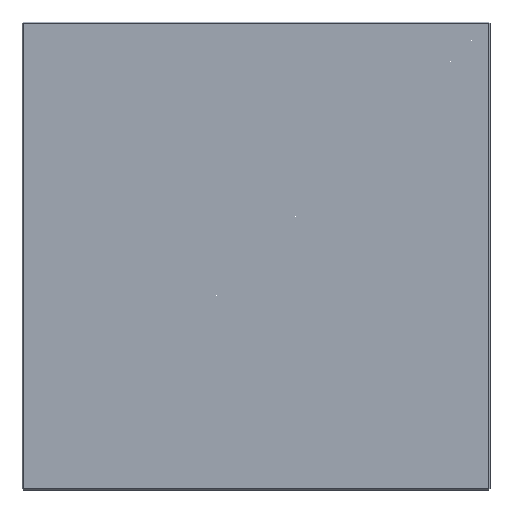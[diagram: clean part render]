
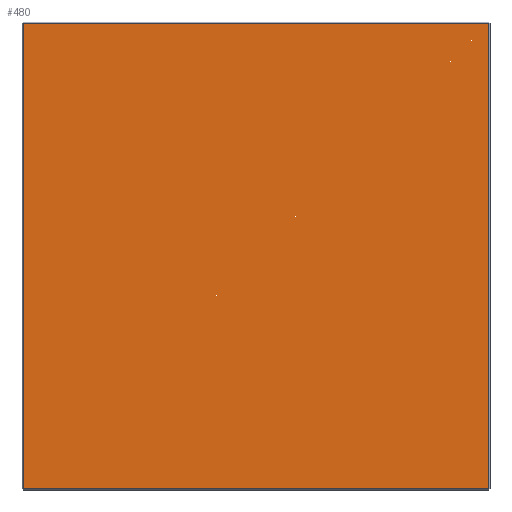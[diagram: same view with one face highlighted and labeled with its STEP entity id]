
A CAD part, front view. The second image highlights one B-rep face of the part: STEP entity #480.
In plain terms, the highlighted planar face has unit normal (0, -1, 0).
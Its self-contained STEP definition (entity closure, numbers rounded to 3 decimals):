
#2 = DIRECTION ( 'NONE',  ( -1., 0., 0. ) ) ;
#4 = CARTESIAN_POINT ( 'NONE',  ( 0., 0., -222. ) ) ;
#18 = VECTOR ( 'NONE', #362, 1000. ) ;
#21 = DIRECTION ( 'NONE',  ( 0., 0., -1. ) ) ;
#29 = ORIENTED_EDGE ( 'NONE', *, *, #387, .T. ) ;
#31 = LINE ( 'NONE', #502, #208 ) ;
#36 = EDGE_LOOP ( 'NONE', ( #555, #331, #377, #29 ) ) ;
#39 = LINE ( 'NONE', #392, #18 ) ;
#45 = VERTEX_POINT ( 'NONE', #423 ) ;
#62 = EDGE_CURVE ( 'NONE', #443, #75, #31, .T. ) ;
#75 = VERTEX_POINT ( 'NONE', #267 ) ;
#116 = VECTOR ( 'NONE', #536, 1000. ) ;
#208 = VECTOR ( 'NONE', #21, 1000. ) ;
#240 = CARTESIAN_POINT ( 'NONE',  ( 222., 0., 222. ) ) ;
#267 = CARTESIAN_POINT ( 'NONE',  ( -222., 0., -222. ) ) ;
#301 = PLANE ( 'NONE',  #623 ) ;
#310 = CARTESIAN_POINT ( 'NONE',  ( 0., 0., 0. ) ) ;
#331 = ORIENTED_EDGE ( 'NONE', *, *, #379, .T. ) ;
#362 = DIRECTION ( 'NONE',  ( 0., 0., 1. ) ) ;
#377 = ORIENTED_EDGE ( 'NONE', *, *, #62, .T. ) ;
#379 = EDGE_CURVE ( 'NONE', #600, #443, #635, .T. ) ;
#387 = EDGE_CURVE ( 'NONE', #75, #45, #575, .T. ) ;
#392 = CARTESIAN_POINT ( 'NONE',  ( 222., 0., 0. ) ) ;
#423 = CARTESIAN_POINT ( 'NONE',  ( 222., 0., -222. ) ) ;
#434 = CARTESIAN_POINT ( 'NONE',  ( 0., 0., 222. ) ) ;
#443 = VERTEX_POINT ( 'NONE', #477 ) ;
#468 = FACE_OUTER_BOUND ( 'NONE', #36, .T. ) ;
#477 = CARTESIAN_POINT ( 'NONE',  ( -222., 0., 222. ) ) ;
#480 = ADVANCED_FACE ( 'NONE', ( #468 ), #301, .F. ) ;
#502 = CARTESIAN_POINT ( 'NONE',  ( -222., 0., 0. ) ) ;
#520 = DIRECTION ( 'NONE',  ( 0., 1., 0. ) ) ;
#536 = DIRECTION ( 'NONE',  ( 1., 0., 0. ) ) ;
#541 = VECTOR ( 'NONE', #2, 1000. ) ;
#555 = ORIENTED_EDGE ( 'NONE', *, *, #618, .T. ) ;
#564 = DIRECTION ( 'NONE',  ( 0., 0., 1. ) ) ;
#575 = LINE ( 'NONE', #4, #116 ) ;
#600 = VERTEX_POINT ( 'NONE', #240 ) ;
#618 = EDGE_CURVE ( 'NONE', #45, #600, #39, .T. ) ;
#623 = AXIS2_PLACEMENT_3D ( 'NONE', #310, #520, #564 ) ;
#635 = LINE ( 'NONE', #434, #541 ) ;
